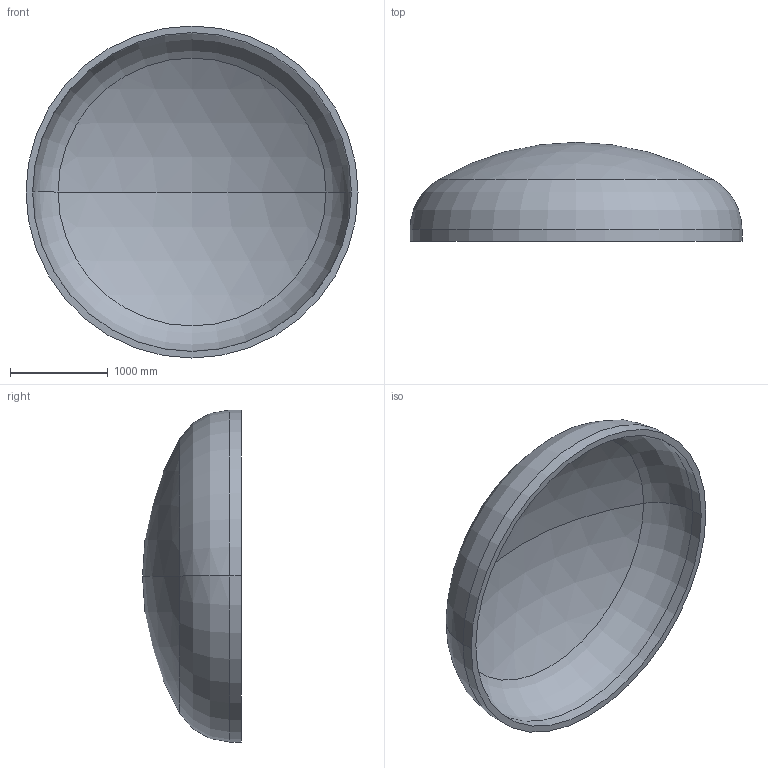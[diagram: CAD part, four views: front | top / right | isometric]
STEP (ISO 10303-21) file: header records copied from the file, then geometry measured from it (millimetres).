
FILE_DESCRIPTION (( 'STEP AP203' ), '1' );
FILE_NAME ('DIN 28013 Korbbogenform_-_Boden DIN 28013 - 3400 x 120 - I - s=68.step', '2016-07-01T19:41:54', ( '' ), ( '' ), 'SwSTEP 2.0', 'SolidWorks 2013', '' );
FILE_SCHEMA (( 'CONFIG_CONTROL_DESIGN' ));
Length unit declared in the file: millimetre
Products named in the file (1): DIN 28013 Korbbogenform_-_Boden DIN 28013 - 3400 x 120 - I - s=68
Bounding box: 3400 x 1012.59 x 3400 mm (x, y, z)
Volume: 918709428.2 mm3; surface area: 27742350.2 mm2
Topology: 1 solids, 1 shells, 13 faces, 24 edges, 14 vertices
Faces by surface type: torus 4, cylinder 4, sphere 4, plane 1
Entity records: 407 total; most frequent: DIRECTION 72, CARTESIAN_POINT 52, ORIENTED_EDGE 48, AXIS2_PLACEMENT_3D 34, EDGE_CURVE 24, CIRCLE 20, EDGE_LOOP 14, VERTEX_POINT 14
